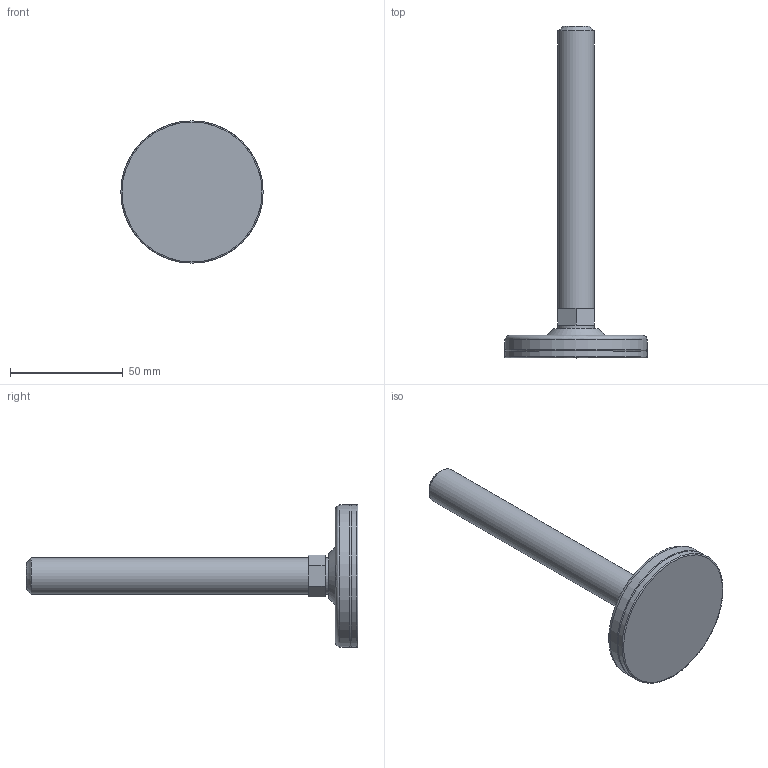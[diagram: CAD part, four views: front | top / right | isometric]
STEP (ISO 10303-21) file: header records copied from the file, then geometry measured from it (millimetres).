
FILE_DESCRIPTION(('STEP AP203'),'2;1');
FILE_NAME('15490-G.stp','2016-03-18T07:12:56',(''),(''),'2008.1.107','THINKDESIGN','');
FILE_SCHEMA(('CONFIG_CONTROL_DESIGN'));
Length unit declared in the file: millimetre
Bounding box: 63 x 147 x 63 mm (x, y, z)
Volume: 58158.1 mm3; surface area: 23575.8 mm2
Topology: 6 solids, 6 shells, 43 faces, 106 edges, 79 vertices
Faces by surface type: plane 22, bspline 11, cylinder 10
Full cylindrical faces by diameter (mm): 10 x1, 10.2 x1, 10.5 x2, 16 x2, 56.5 x2, 63 x2
Entity records: 2212 total; most frequent: CARTESIAN_POINT 1033, DIRECTION 241, ORIENTED_EDGE 212, EDGE_CURVE 106, AXIS2_PLACEMENT_3D 103, VERTEX_POINT 79, CIRCLE 71, EDGE_LOOP 53
